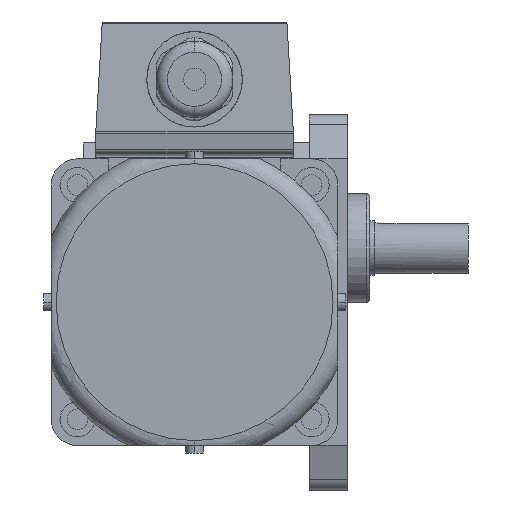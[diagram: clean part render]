
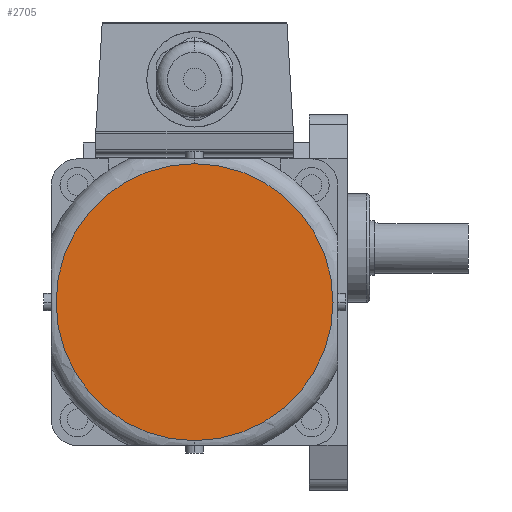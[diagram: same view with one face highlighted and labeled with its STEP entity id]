
A CAD part, left-side view. The second image highlights one B-rep face of the part: STEP entity #2705.
In plain terms, the highlighted planar face has unit normal (-1, 0, 0).
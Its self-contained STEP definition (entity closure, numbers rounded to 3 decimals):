
#2685=CARTESIAN_POINT('POINT73357',(-196.5,48.,26.5));
#2686=VERTEX_POINT('VERTEX73357',#2685);
#2687=CARTESIAN_POINT('POINT73358',(-196.5,48.,-60.5));
#2688=VERTEX_POINT('VERTEX73358',#2687);
#2689=CARTESIAN_POINT('POS120058',(-196.5,48.,-17.));
#2690=DIRECTION('DIR181201',(-1.,0.,0.));
#2691=DIRECTION('DIR181202',(0.,0.,-1.));
#2692=AXIS2_PLACEMENT_3D('AXIS61144',#2689,#2690,#2691);
#2693=CIRCLE('ELLIPSE28861',#2692,43.5);
#2694=EDGE_CURVE('EDGE112205',#2686,#2688,#2693,.T.);
#2695=ORIENTED_EDGE('COEDGE224385',*,*,#2694,.T.);
#2696=EDGE_CURVE('EDGE112206',#2688,#2686,#2693,.T.);
#2697=ORIENTED_EDGE('COEDGE224386',*,*,#2696,.T.);
#2698=EDGE_LOOP('NONE',(#2695,#2697));
#2699=FACE_BOUND('LOOP1',#2698,.T.);
#2700=CARTESIAN_POINT('POS120059',(-196.5,48.,
   5.25));
#2701=DIRECTION('DIR181203',(-1.,0.,0.));
#2702=DIRECTION('DIR181204',(0.,1.,0.));
#2703=AXIS2_PLACEMENT_3D('AXIS61145',#2700,#2701,#2702);
#2704=PLANE('PLANE19469',#2703);
#2705=ADVANCED_FACE('FACE46188',(#2699),#2704,.T.);
